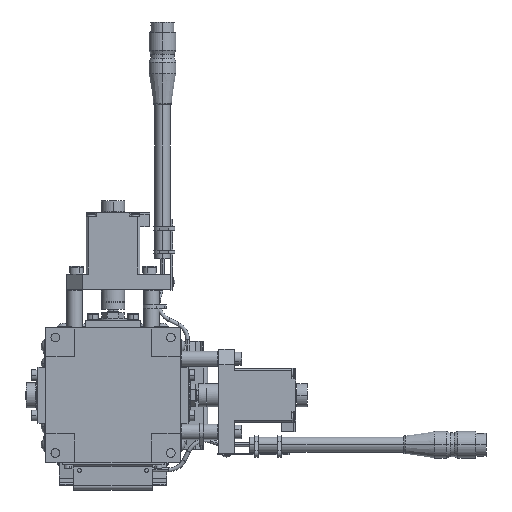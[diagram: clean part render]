
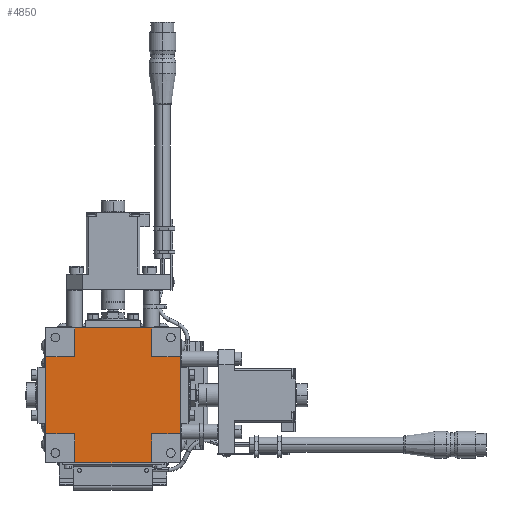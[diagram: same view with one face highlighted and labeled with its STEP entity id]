
A CAD part, front view. The second image highlights one B-rep face of the part: STEP entity #4850.
In plain terms, the highlighted planar face has unit normal (0, -1, 0).
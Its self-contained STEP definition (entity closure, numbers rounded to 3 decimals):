
#491 = CARTESIAN_POINT ( 'NONE',  ( -20., 0.3, 35. ) ) ;
#882 = VERTEX_POINT ( 'NONE', #67944 ) ;
#1562 = VERTEX_POINT ( 'NONE', #5815 ) ;
#2242 = EDGE_CURVE ( 'NONE', #1562, #15560, #58900, .T. ) ;
#2347 = VERTEX_POINT ( 'NONE', #49257 ) ;
#2527 = EDGE_CURVE ( 'NONE', #4600, #63829, #39253, .T. ) ;
#2584 = VECTOR ( 'NONE', #48886, 1000. ) ;
#3551 = EDGE_CURVE ( 'NONE', #63829, #59133, #60509, .T. ) ;
#3868 = VERTEX_POINT ( 'NONE', #63710 ) ;
#3987 = LINE ( 'NONE', #60282, #14691 ) ;
#4600 = VERTEX_POINT ( 'NONE', #47909 ) ;
#4850 = ADVANCED_FACE ( 'NONE', ( #43334 ), #73772, .F. ) ;
#4889 = VECTOR ( 'NONE', #70191, 1000. ) ;
#5598 = ORIENTED_EDGE ( 'NONE', *, *, #35284, .T. ) ;
#5815 = CARTESIAN_POINT ( 'NONE',  ( 20., 0.3, 35. ) ) ;
#6426 = LINE ( 'NONE', #25764, #14464 ) ;
#7559 = VERTEX_POINT ( 'NONE', #40971 ) ;
#7927 = CARTESIAN_POINT ( 'NONE',  ( -20., 0.3, -35. ) ) ;
#8281 = CARTESIAN_POINT ( 'NONE',  ( 20., 0.3, -20. ) ) ;
#8793 = VERTEX_POINT ( 'NONE', #8281 ) ;
#9617 = CARTESIAN_POINT ( 'NONE',  ( 20., 0.3, -20. ) ) ;
#10289 = LINE ( 'NONE', #50575, #14743 ) ;
#10959 = DIRECTION ( 'NONE',  ( 0., 1., 0. ) ) ;
#10972 = DIRECTION ( 'NONE',  ( 0., 0., 1. ) ) ;
#14464 = VECTOR ( 'NONE', #53376, 1000. ) ;
#14691 = VECTOR ( 'NONE', #26146, 1000. ) ;
#14743 = VECTOR ( 'NONE', #27419, 1000. ) ;
#15539 = ORIENTED_EDGE ( 'NONE', *, *, #39107, .T. ) ;
#15560 = VERTEX_POINT ( 'NONE', #491 ) ;
#15963 = EDGE_CURVE ( 'NONE', #59133, #17137, #18969, .T. ) ;
#17137 = VERTEX_POINT ( 'NONE', #48029 ) ;
#17269 = CARTESIAN_POINT ( 'NONE',  ( -20., 0.3, -35. ) ) ;
#17648 = VECTOR ( 'NONE', #59551, 1000. ) ;
#18097 = ORIENTED_EDGE ( 'NONE', *, *, #67680, .T. ) ;
#18969 = LINE ( 'NONE', #66946, #21686 ) ;
#21565 = CARTESIAN_POINT ( 'NONE',  ( -20., 0.3, -20. ) ) ;
#21682 = CARTESIAN_POINT ( 'NONE',  ( -35., 0.3, 20. ) ) ;
#21686 = VECTOR ( 'NONE', #55223, 1000. ) ;
#22221 = DIRECTION ( 'NONE',  ( -1., 0., 0. ) ) ;
#22444 = VERTEX_POINT ( 'NONE', #21682 ) ;
#23569 = DIRECTION ( 'NONE',  ( -1., 0., 0. ) ) ;
#25764 = CARTESIAN_POINT ( 'NONE',  ( -20., 0.3, 20. ) ) ;
#26146 = DIRECTION ( 'NONE',  ( 0., 0., -1. ) ) ;
#26826 = DIRECTION ( 'NONE',  ( 1., 0., 0. ) ) ;
#27419 = DIRECTION ( 'NONE',  ( -1., 0., 0. ) ) ;
#28424 = ORIENTED_EDGE ( 'NONE', *, *, #31414, .T. ) ;
#31189 = VECTOR ( 'NONE', #72930, 1000. ) ;
#31414 = EDGE_CURVE ( 'NONE', #882, #7559, #64584, .T. ) ;
#31524 = AXIS2_PLACEMENT_3D ( 'NONE', #45148, #10959, #22221 ) ;
#33892 = LINE ( 'NONE', #63649, #41946 ) ;
#35284 = EDGE_CURVE ( 'NONE', #17137, #8793, #69450, .T. ) ;
#36850 = DIRECTION ( 'NONE',  ( -1., 0., 0. ) ) ;
#37227 = CARTESIAN_POINT ( 'NONE',  ( 20., 0.3, -35. ) ) ;
#37322 = ORIENTED_EDGE ( 'NONE', *, *, #15963, .T. ) ;
#39107 = EDGE_CURVE ( 'NONE', #22444, #4600, #3987, .T. ) ;
#39253 = LINE ( 'NONE', #39296, #31189 ) ;
#39296 = CARTESIAN_POINT ( 'NONE',  ( -35., 0.3, -20. ) ) ;
#39914 = ORIENTED_EDGE ( 'NONE', *, *, #2527, .T. ) ;
#40971 = CARTESIAN_POINT ( 'NONE',  ( 35., 0.3, 20. ) ) ;
#41946 = VECTOR ( 'NONE', #23569, 1000. ) ;
#42335 = CARTESIAN_POINT ( 'NONE',  ( -20., 0.3, 35. ) ) ;
#42898 = LINE ( 'NONE', #9617, #59858 ) ;
#43334 = FACE_OUTER_BOUND ( 'NONE', #53959, .T. ) ;
#45148 = CARTESIAN_POINT ( 'NONE',  ( 0., 0.3, 0. ) ) ;
#47909 = CARTESIAN_POINT ( 'NONE',  ( -35., 0.3, -20. ) ) ;
#48029 = CARTESIAN_POINT ( 'NONE',  ( 20., 0.3, -35. ) ) ;
#48168 = VECTOR ( 'NONE', #36850, 1000. ) ;
#48886 = DIRECTION ( 'NONE',  ( 0., 0., 1. ) ) ;
#49257 = CARTESIAN_POINT ( 'NONE',  ( -20., 0.3, 20. ) ) ;
#50390 = VECTOR ( 'NONE', #10972, 1000. ) ;
#50575 = CARTESIAN_POINT ( 'NONE',  ( -35., 0.3, 20. ) ) ;
#50877 = ORIENTED_EDGE ( 'NONE', *, *, #73676, .T. ) ;
#51350 = EDGE_CURVE ( 'NONE', #3868, #1562, #62926, .T. ) ;
#53376 = DIRECTION ( 'NONE',  ( 0., 0., -1. ) ) ;
#53804 = EDGE_CURVE ( 'NONE', #15560, #2347, #6426, .T. ) ;
#53959 = EDGE_LOOP ( 'NONE', ( #50877, #28424, #54053, #68919, #69688, #72887, #18097, #15539, #39914, #71090, #37322, #5598 ) ) ;
#54053 = ORIENTED_EDGE ( 'NONE', *, *, #72385, .T. ) ;
#55223 = DIRECTION ( 'NONE',  ( 1., 0., 0. ) ) ;
#55859 = CARTESIAN_POINT ( 'NONE',  ( 20., 0.3, 20. ) ) ;
#57712 = CARTESIAN_POINT ( 'NONE',  ( 35., 0.3, 20. ) ) ;
#58900 = LINE ( 'NONE', #42335, #48168 ) ;
#59133 = VERTEX_POINT ( 'NONE', #17269 ) ;
#59551 = DIRECTION ( 'NONE',  ( 0., 0., -1. ) ) ;
#59858 = VECTOR ( 'NONE', #26826, 1000. ) ;
#60282 = CARTESIAN_POINT ( 'NONE',  ( -35., 0.3, 20. ) ) ;
#60509 = LINE ( 'NONE', #7927, #17648 ) ;
#62926 = LINE ( 'NONE', #55859, #50390 ) ;
#63649 = CARTESIAN_POINT ( 'NONE',  ( 20., 0.3, 20. ) ) ;
#63710 = CARTESIAN_POINT ( 'NONE',  ( 20., 0.3, 20. ) ) ;
#63829 = VERTEX_POINT ( 'NONE', #21565 ) ;
#64584 = LINE ( 'NONE', #57712, #4889 ) ;
#66946 = CARTESIAN_POINT ( 'NONE',  ( -20., 0.3, -35. ) ) ;
#67680 = EDGE_CURVE ( 'NONE', #2347, #22444, #10289, .T. ) ;
#67944 = CARTESIAN_POINT ( 'NONE',  ( 35., 0.3, -20. ) ) ;
#68919 = ORIENTED_EDGE ( 'NONE', *, *, #51350, .T. ) ;
#69450 = LINE ( 'NONE', #37227, #2584 ) ;
#69688 = ORIENTED_EDGE ( 'NONE', *, *, #2242, .T. ) ;
#70191 = DIRECTION ( 'NONE',  ( 0., 0., 1. ) ) ;
#71090 = ORIENTED_EDGE ( 'NONE', *, *, #3551, .T. ) ;
#72385 = EDGE_CURVE ( 'NONE', #7559, #3868, #33892, .T. ) ;
#72887 = ORIENTED_EDGE ( 'NONE', *, *, #53804, .T. ) ;
#72930 = DIRECTION ( 'NONE',  ( 1., 0., 0. ) ) ;
#73676 = EDGE_CURVE ( 'NONE', #8793, #882, #42898, .T. ) ;
#73772 = PLANE ( 'NONE',  #31524 ) ;
